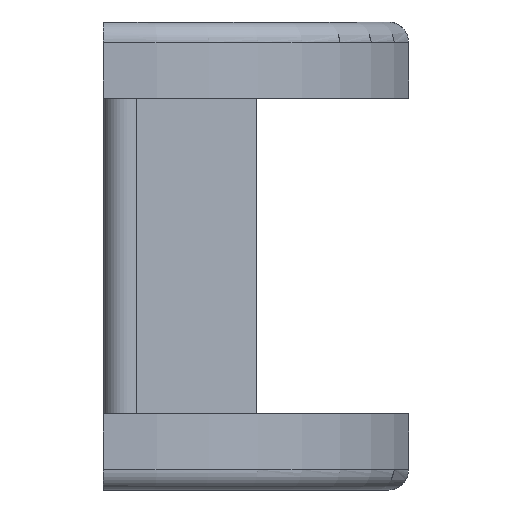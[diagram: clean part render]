
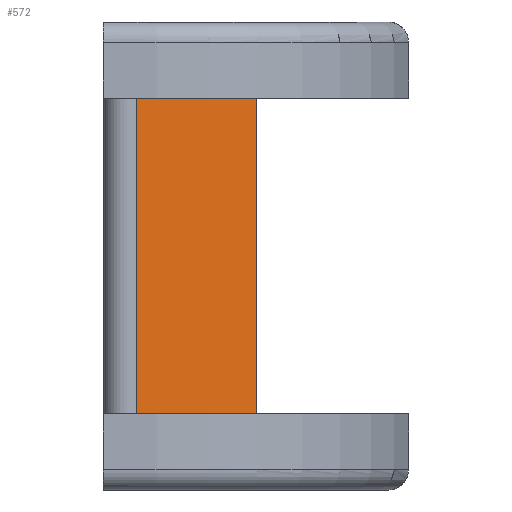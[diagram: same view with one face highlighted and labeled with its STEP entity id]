
A CAD part, front view. The second image highlights one B-rep face of the part: STEP entity #572.
In plain terms, the highlighted planar face has unit normal (0.64, -0.768, 0).
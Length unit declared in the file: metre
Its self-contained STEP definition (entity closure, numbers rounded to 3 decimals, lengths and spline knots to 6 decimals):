
#55=LINE('',#914,#105);
#66=LINE('',#943,#116);
#67=LINE('',#946,#117);
#68=LINE('',#947,#118);
#105=VECTOR('',#727,1.);
#116=VECTOR('',#754,1.);
#117=VECTOR('',#755,1.);
#118=VECTOR('',#756,1.);
#196=ORIENTED_EDGE('',*,*,#339,.F.);
#197=ORIENTED_EDGE('',*,*,#340,.T.);
#198=ORIENTED_EDGE('',*,*,#324,.T.);
#199=ORIENTED_EDGE('',*,*,#341,.F.);
#324=EDGE_CURVE('',#399,#398,#55,.T.);
#339=EDGE_CURVE('',#409,#410,#66,.T.);
#340=EDGE_CURVE('',#409,#399,#67,.T.);
#341=EDGE_CURVE('',#410,#398,#68,.T.);
#398=VERTEX_POINT('',#913);
#399=VERTEX_POINT('',#915);
#409=VERTEX_POINT('',#944);
#410=VERTEX_POINT('',#945);
#467=EDGE_LOOP('',(#196,#197,#198,#199));
#513=FACE_BOUND('',#467,.T.);
#554=PLANE('',#631);
#572=ADVANCED_FACE('',(#513),#554,.F.);
#631=AXIS2_PLACEMENT_3D('',#942,#752,#753);
#727=DIRECTION('',(0.768,0.64,0.));
#752=DIRECTION('',(-0.64,0.768,0.));
#753=DIRECTION('',(-0.768,-0.64,0.));
#754=DIRECTION('',(0.768,0.64,0.));
#755=DIRECTION('',(0.,0.,-1.));
#756=DIRECTION('',(0.,0.,-1.));
#913=CARTESIAN_POINT('',(0.,-0.039688,0.));
#914=CARTESIAN_POINT('',(-0.004762,-0.043656,0.));
#915=CARTESIAN_POINT('',(-0.007442,-0.045889,0.));
#942=CARTESIAN_POINT('',(-0.004762,-0.043656,0.019685));
#943=CARTESIAN_POINT('',(-0.004762,-0.043656,0.019685));
#944=CARTESIAN_POINT('',(-0.007442,-0.045889,0.019685));
#945=CARTESIAN_POINT('',(0.,-0.039688,0.019685));
#946=CARTESIAN_POINT('',(-0.007442,-0.045889,0.019685));
#947=CARTESIAN_POINT('',(0.,-0.039688,0.019685));
